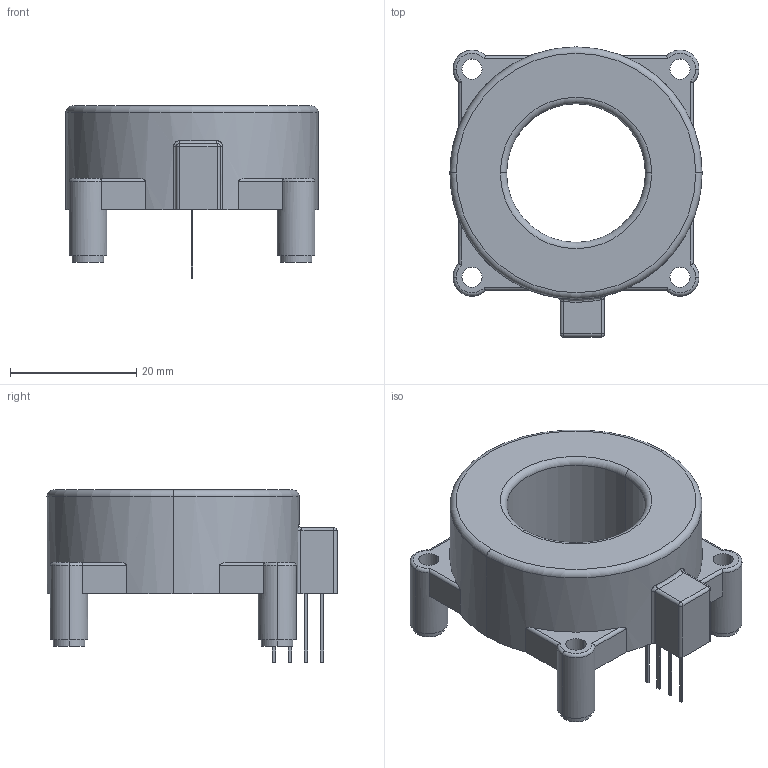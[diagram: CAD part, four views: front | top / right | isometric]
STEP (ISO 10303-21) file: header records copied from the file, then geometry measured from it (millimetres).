
FILE_DESCRIPTION(('CoCreate Modeling STEP Export'),'2;1');
FILE_NAME('HTFS_XXX-P_SP3 series_blackbox.stp','2013-10-18T20:26:17',(''),(''),'CoCreate Modeling STEP processor for AP214 (Solid Model)','CoCreate Modeling 17.00A 17-Jun-2010 (C) Parametric Technology GmbH','');
FILE_SCHEMA(('AUTOMOTIVE_DESIGN { 1 0 10303 214 1 1 1 1 }'));
Length unit declared in the file: millimetre
Products named in the file (2): HTFS_xxx-P_SP3
Assembly tree (1 placements, depth 2):
  HTFS_xxx-P_SP3
    HTFS_xxx-P_SP3
Bounding box: 40 x 46 x 27.3 mm (x, y, z)
Volume: 15665.7 mm3; surface area: 6938.3 mm2
Topology: 1 solids, 1 shells, 144 faces, 356 edges, 222 vertices
Faces by surface type: cylinder 59, plane 58, torus 20, bspline 5, sphere 2
Entity records: 6083 total; most frequent: CARTESIAN_POINT 1811, ORIENTED_EDGE 708, DIRECTION 577, EDGE_CURVE 354, VERTEX_POINT 222, AXIS2_PLACEMENT_3D 200, VECTOR 177, LINE 177
